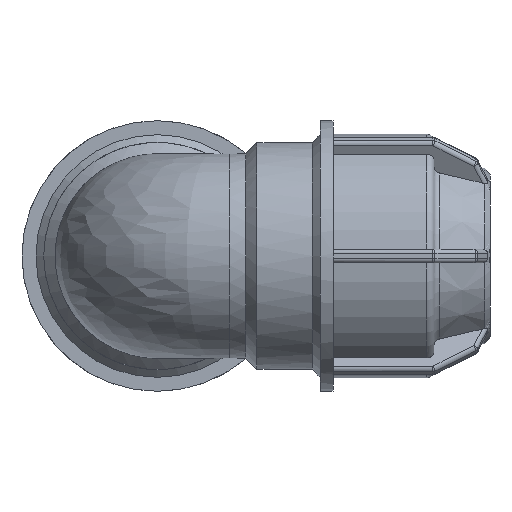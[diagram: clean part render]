
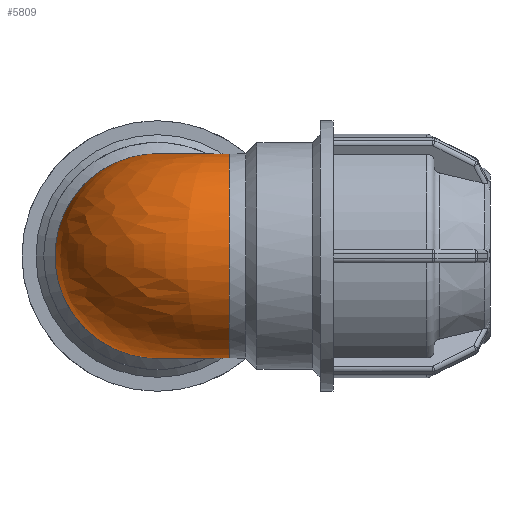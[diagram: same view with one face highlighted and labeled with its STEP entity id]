
A CAD part, front view. The second image highlights one B-rep face of the part: STEP entity #5809.
In plain terms, the highlighted free-form (B-spline) face has degree [2, 2] with [7, 3] control points.
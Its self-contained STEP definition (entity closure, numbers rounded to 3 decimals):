
#1374=FACE_OUTER_BOUND('',#1778,.T.);
#1778=EDGE_LOOP('',(#3990,#3991));
#2209=CIRCLE('',#6215,23.04);
#2210=CIRCLE('',#6216,23.04);
#2549=VERTEX_POINT('',#8837);
#2550=VERTEX_POINT('',#8838);
#3081=EDGE_CURVE('',#2549,#2550,#2209,.T.);
#3082=EDGE_CURVE('',#2550,#2549,#2210,.T.);
#3990=ORIENTED_EDGE('',*,*,#3081,.F.);
#3991=ORIENTED_EDGE('',*,*,#3082,.F.);
#5808=(
BOUNDED_SURFACE()
B_SPLINE_SURFACE(2,2,((#8816,#8817,#8818),(#8819,#8820,#8821),(#8822,#8823,
#8824),(#8825,#8826,#8827),(#8828,#8829,#8830),(#8831,#8832,#8833),(#8834,
#8835,#8836)),.UNSPECIFIED.,.F.,.F.,.F.)
B_SPLINE_SURFACE_WITH_KNOTS((3,2,2,3),(3,3),(-2.354,-0.785,
0.785,2.354),(-3.142,-1.571),
 .UNSPECIFIED.)
GEOMETRIC_REPRESENTATION_ITEM()
RATIONAL_B_SPLINE_SURFACE(((1.,0.707,1.),(0.708,
0.5,0.708),(1.,0.707,1.),(0.708,
0.5,0.708),(1.,0.707,1.),(0.708,
0.5,0.708),(1.,0.707,1.)))
REPRESENTATION_ITEM('')
SURFACE()
);
#5809=ADVANCED_FACE('',(#1374),#5808,.F.);
#6215=AXIS2_PLACEMENT_3D('',#8839,#6963,#6964);
#6216=AXIS2_PLACEMENT_3D('',#8840,#6965,#6966);
#6963=DIRECTION('center_axis',(1.,0.,0.));
#6964=DIRECTION('ref_axis',(0.,0.,-1.));
#6965=DIRECTION('center_axis',(0.,1.,0.));
#6966=DIRECTION('ref_axis',(0.,0.,-1.));
#8816=CARTESIAN_POINT('Ctrl Pts',(16.25,16.25,-16.333));
#8817=CARTESIAN_POINT('Ctrl Pts',(16.25,16.25,-16.333));
#8818=CARTESIAN_POINT('Ctrl Pts',(16.25,16.25,-16.333));
#8819=CARTESIAN_POINT('Ctrl Pts',(-0.056,16.25,-32.556));
#8820=CARTESIAN_POINT('Ctrl Pts',(-0.056,-0.056,
-32.556));
#8821=CARTESIAN_POINT('Ctrl Pts',(16.25,-0.056,-32.556));
#8822=CARTESIAN_POINT('Ctrl Pts',(-16.306,16.25,-16.278));
#8823=CARTESIAN_POINT('Ctrl Pts',(-16.306,-16.306,-16.278));
#8824=CARTESIAN_POINT('Ctrl Pts',(16.25,-16.306,-16.278));
#8825=CARTESIAN_POINT('Ctrl Pts',(-32.556,16.25,0.));
#8826=CARTESIAN_POINT('Ctrl Pts',(-32.556,-32.556,0.));
#8827=CARTESIAN_POINT('Ctrl Pts',(16.25,-32.556,0.));
#8828=CARTESIAN_POINT('Ctrl Pts',(-16.306,16.25,16.278));
#8829=CARTESIAN_POINT('Ctrl Pts',(-16.306,-16.306,16.278));
#8830=CARTESIAN_POINT('Ctrl Pts',(16.25,-16.306,16.278));
#8831=CARTESIAN_POINT('Ctrl Pts',(-0.056,16.25,32.556));
#8832=CARTESIAN_POINT('Ctrl Pts',(-0.056,-0.056,
32.556));
#8833=CARTESIAN_POINT('Ctrl Pts',(16.25,-0.056,32.556));
#8834=CARTESIAN_POINT('Ctrl Pts',(16.25,16.25,16.333));
#8835=CARTESIAN_POINT('Ctrl Pts',(16.25,16.25,16.333));
#8836=CARTESIAN_POINT('Ctrl Pts',(16.25,16.25,16.333));
#8837=CARTESIAN_POINT('',(16.25,16.25,16.333));
#8838=CARTESIAN_POINT('',(16.25,16.25,-16.333));
#8839=CARTESIAN_POINT('Origin',(16.25,0.,0.));
#8840=CARTESIAN_POINT('Origin',(0.,16.25,0.));
